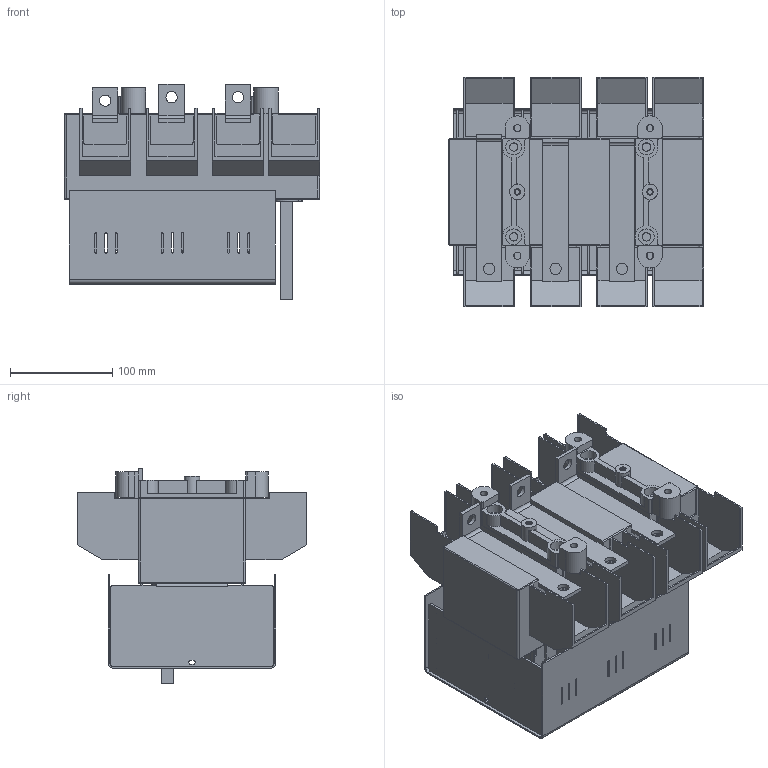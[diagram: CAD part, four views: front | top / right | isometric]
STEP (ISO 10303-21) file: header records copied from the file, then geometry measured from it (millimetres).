
FILE_DESCRIPTION(/* description */ (''),/* implementation_level */ '2;1');
FILE_NAME(/* name */ 'RAB 1 P3 B z oslona zaciskow.stp',/* time_stamp */ '2021-08-19T12:50:02+02:00',/* author */ (''),/* organization */ (''),/* preprocessor_version */ 'ST-DEVELOPER v18.1',/* originating_system */ 'SIEMENS PLM Software NX 1965',/* authorisation */ '');
FILE_SCHEMA (('AUTOMOTIVE_DESIGN { 1 0 10303 214 3 1 1 }','FEATURE_BASED_PROCESS_PLANNING'));
Length unit declared in the file: millimetre
Products named in the file (1): RAB 1 P3 B z oslona zaciskow_stp
Bounding box: 250 x 225 x 210.69 mm (x, y, z)
Volume: 2598269.8 mm3; surface area: 598253 mm2
Topology: 1 solids, 1 shells, 1198 faces, 3346 edges, 2188 vertices
Faces by surface type: plane 838, cylinder 352, bspline 5, torus 3
Full cylindrical faces by diameter (mm): 4.8 x2, 6.2 x2, 7 x4, 8.2 x4, 11 x6, 14 x4, 15 x2, 15.5 x4
Entity records: 38417 total; most frequent: CARTESIAN_POINT 6814, ORIENTED_EDGE 6628, DIRECTION 6434, EDGE_CURVE 3314, LINE 2570, VECTOR 2570, VERTEX_POINT 2184, AXIS2_PLACEMENT_3D 1932
